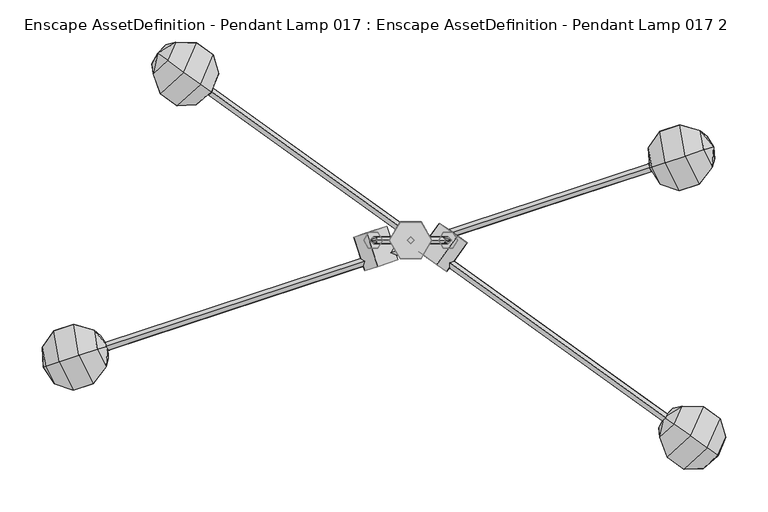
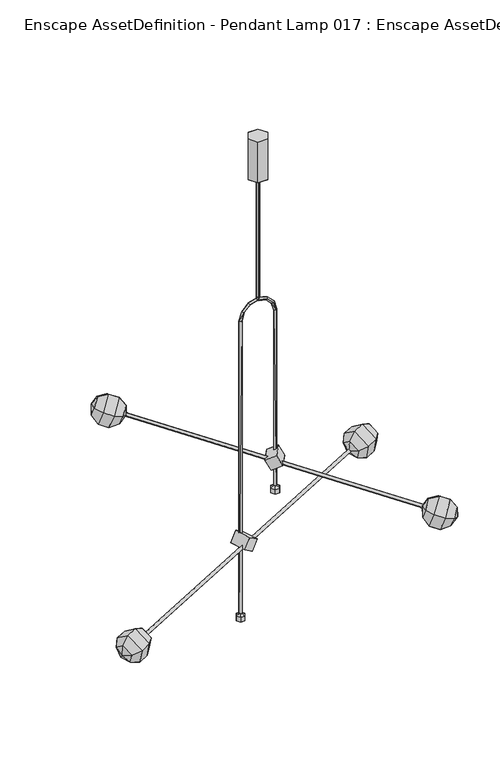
"""IFC4 building model written with IfcOpenShell, lengths in millimetres: geographic element geometry, Enscape AssetDefinition - Pendant Lamp 017 : Enscape AssetDefinition - Pendant Lamp 017 2."""

from ifc_helpers import new_model, si_unit, origin, place, context, project, spatial, triangles, source, transform, mapped, element, save


def enscape_assetdefinition_pendant_lamp_017_enscape_30fa210a(model_context):
    return source(origin(), model_context, "Body", "Tessellation", [
        triangles([(24.970369, 0.0, -110.5763719), (24.970369, 0.0, 0.0), (12.4851845, 21.6247815, 0.0), (-12.4851845, -21.6247815, 0.0), (12.4851845, -21.6247815, 0.0), (-12.4851845, 21.6247815, 0.0), (-24.970369, 0.0, 0.0), (-12.4851845, 21.6247815, -110.5763719), (-12.4851845, -21.6247815, -110.5763719), (-24.970369, 0.0, -110.5763719), (12.4851845, -21.6247815, -110.5763719), (12.4851845, 21.6247815, -110.5763719), (-44.3841413, 4.1345414, -486.2931006), (-44.3841413, -4.1345414, -486.2931006), (-48.5186818, 0.0, -1287.0794323), (-44.3841413, 4.1345414, -1287.0794323), (-40.2859358, 0.0, -486.8382345), (-44.3841413, -4.1345414, -1287.0794323), (-40.2495963, 0.0, -1287.0794323), (-48.4831507, 0.0, -485.7480758), (-38.322838, 4.1345414, -463.8947585), (-38.322838, -4.1345414, -463.8947585), (-34.7446815, 0.0, -465.9660347), (-41.9009898, 0.0, -461.8225739), (-20.3270864, 0.0, -451.5484554), (0.0, 4.1345414, -441.9089639), (-22.3983921, 4.1345414, -447.9702945), (-22.3983921, -4.1345414, -447.9702945), (-24.4705085, 0.0, -444.3921335), (0.0, 0.0, -437.7744415), (0.0, 0.0, -446.0435589), (24.4705085, 0.0, -444.3921335), (22.3983921, 4.1345414, -447.9702945), (22.3983921, -4.1345414, -447.9702945), (0.0, -4.1345414, -441.9089639), (41.9009898, 0.0, -461.8225739), (38.322838, 4.1345414, -463.8947585), (20.3270864, 0.0, -451.5484554), (34.7446815, 0.0, -465.9660347), (38.322838, -4.1345414, -463.8947585), (48.4831507, 0.0, -485.7480758), (44.3841413, -4.1345414, -486.2931006), (44.3841413, 4.1345414, -972.2349146), (44.3841413, 4.1345414, -486.2931006), (40.2859358, 0.0, -486.8382345), (40.2495963, 0.0, -972.2349146), (44.3841413, -4.1345414, -972.2349146), (48.5186818, 0.0, -972.2349146), (38.7895882, 9.690331, -965.7748438), (49.9794984, 9.690331, -965.7748438), (38.7895882, 9.690331, -978.6952034), (33.195035, 0.0, -978.6952034), (44.3841413, 0.0, -985.1553469), (49.9794984, 9.690331, -978.6952034), (33.195035, 0.0, -965.7748438), (38.7895882, -9.690331, -965.7748438), (49.9794984, -9.690331, -965.7748438), (38.7895882, -9.690331, -978.6952034), (55.5740515, 0.0, -978.6952034), (55.5740515, 0.0, -965.7748438), (49.9794984, -9.690331, -978.6952034), (44.3841413, 0.0, -959.314555), (-49.9794984, 9.690331, -1280.6193615), (-33.195035, 0.0, -1280.6193615), (-38.7895882, 9.690331, -1293.5396484), (-33.195035, 0.0, -1293.5396484), (-38.7895882, 9.690331, -1280.6193615), (-49.9794984, 9.690331, -1293.5396484), (-55.5740515, 0.0, -1293.5396484), (-55.5740515, 0.0, -1280.6193615), (-49.9794984, -9.690331, -1293.5396484), (-49.9794984, -9.690331, -1280.6193615), (-44.3841413, 0.0, -1300.0000099), (-38.7895882, -9.690331, -1293.5396484), (-44.3841413, 0.0, -1274.159), (-38.7895882, -9.690331, -1280.6193615), (-357.8397131, -124.8897969, -1152.3193439), (-360.3696822, -120.4855418, -1147.4522718), (282.0540592, 85.5922774, -999.9518274), (-359.7915198, -125.5317817, -1142.5845457), (284.5840646, 81.1880222, -1004.8195536), (-357.2615144, -129.9360369, -1147.4522718), (284.0058477, 86.2342622, -1009.6864803), (281.4758786, 90.6385082, -1004.8195536), (-43.5071645, 11.3530305, -1096.7589272), (-67.2339412, 3.5490842, -1080.48899), (-30.4591351, -28.315148, -1096.7589272), (-38.7306392, -31.0357101, -1055.5120989), (-15.0038637, -23.2317624, -1071.7821814), (-28.0518942, 16.4364184, -1071.7821814), (-51.7786709, 8.6324701, -1055.5120989), (-54.1851056, -36.1199042, -1080.48899), (-357.487627, -139.6336281, -1167.8786413), (-360.0281333, -149.6477879, -1141.6226858), (-366.3042037, -112.8309854, -1167.8786413), (-374.2930693, -106.2803314, -1141.6226858), (-358.4574806, -125.1013665, -1147.2689255), (-370.4145269, -129.0348292, -1125.396278), (-392.3017447, -136.2339446, -1115.0995955), (-375.4955031, -169.586451, -1141.3554783), (-371.3851436, -153.3834065, -1183.8378416), (-398.9517385, -177.3023681, -1146.5673695), (-394.8406523, -161.0985243, -1189.0495874), (-431.8229879, -149.2335236, -1139.0427561), (-415.7572171, -143.9490623, -1120.312068), (-435.7015303, -126.4798162, -1155.2692366), (-422.0325245, -107.1322689, -1146.5673695), (-398.5770521, -99.4171421, -1141.3554783), (-385.6501522, -110.015941, -1183.8378416), (-409.1055882, -117.7318763, -1189.0495874), (-434.3626222, -150.0693192, -1164.1375179), (-418.8960517, -159.8331219, -1181.5251921), (-427.7126647, -133.0304883, -1181.5251921), (-421.4365216, -169.8472817, -1155.2692366), (289.2870842, 102.8136008, -1022.1910223), (295.5623553, 65.9976158, -995.9358662), (298.1028434, 76.0117666, -1022.1910223), (282.6371086, 85.7755783, -1004.8033482), (281.2974011, 109.3642729, -995.9358662), (307.8933068, 118.1130303, -1029.7164351), (294.9664251, 128.7118202, -987.2339264), (285.1759616, 86.6105655, -979.708659), (301.2416961, 91.8950267, -960.9780436), (318.0471565, 58.5425204, -987.2339264), (318.421843, 136.4269379, -982.0213812), (331.3487429, 125.828139, -1024.5038172), (346.5844045, 106.8100593, -966.0629803), (324.697986, 99.6109529, -955.7662251), (341.5034283, 66.2576472, -982.0213812), (358.5414508, 110.7427135, -987.9357731), (342.7058258, 129.5637667, -982.2895334), (350.6954907, 123.0131128, -1008.5454889), (359.5113044, 96.2104519, -1008.5454889), (356.9708344, 86.1963103, -982.2895334), (345.6137152, 82.4606825, -1024.5038172), (322.1582791, 74.7455648, -1029.7164351), (299.4425327, -208.5310942, -985.1270782), (-238.9457893, 171.7571033, -779.091326), (303.5213898, -205.335686, -980.3692291), (297.7201087, -213.4182595, -980.3692291), (301.7988932, -210.2220338, -975.6104353), (-234.8677679, 174.9532745, -774.3326048), (-233.1453439, 179.8396224, -779.091326), (-237.2233472, 176.643433, -783.8492477), (66.862484, -3.1953869, -885.8731075), (42.5130982, -37.121233, -885.8731075), (55.4731129, 4.9792149, -859.5671551), (34.1018906, 20.317394, -873.5866482), (9.7525104, -13.6084558, -873.5866482), (45.4912594, 12.1436004, -899.8926006), (21.1418804, -21.7822506, -899.8926006), (31.1237271, -28.9466343, -859.5671551), (-235.7124656, 175.5492411, -779.1115282), (-238.1447299, 194.6601748, -795.4130768), (-278.3886942, 178.0816446, -800.9421724), (-254.5965055, 171.7377005, -795.4130768), (-253.3262524, 160.0939708, -769.7442221), (-226.7069106, 197.1829133, -769.7442221), (-276.3335145, 159.2412249, -759.4086611), (-295.9451444, 173.3172189, -752.0529327), (-252.8740452, 233.328654, -752.0529327), (-268.0555495, 198.7624135, -726.3839327), (-248.4431202, 184.6864195, -733.7389343), (-236.0895683, 175.8197551, -753.8795654), (-251.7693707, 215.1705872, -800.9421724), (-233.2616159, 219.2526236, -759.4086611), (-278.0519597, 234.0344248, -750.4871126), (-287.4346174, 212.6712848, -734.6223833), (-299.1784863, 221.1002579, -755.3088387), (-298.0003242, 192.1576568, -793.5864441), (-289.489779, 231.5116864, -776.1559673), (-271.3809643, 229.2465812, -793.5864441), (-304.6712833, 196.9454823, -750.4871126), (-305.9415001, 208.5892302, -776.1559673), (294.8323671, -233.3302709, -975.3318913), (300.3259817, -209.1754952, -980.1535446), (293.562114, -221.6865048, -1001.0015453), (310.0138896, -198.7640486, -1001.0015453), (321.4525083, -196.2405108, -975.3318913), (346.6304046, -196.9462998, -976.8985107), (328.1235037, -201.0283363, -1018.4320221), (312.0698688, -217.6036509, -959.4679613), (303.558506, -256.9576986, -976.8985107), (331.4489184, -231.5125221, -951.2288567), (351.0605121, -245.5885343, -958.5845123), (366.2420345, -211.022312, -984.253367), (372.7975574, -233.0920223, -994.5890007), (363.7920024, -254.7265121, -1003.9570335), (363.4148452, -254.4551987, -978.7251434), (346.1781793, -270.1817824, -994.5890007), (361.3597381, -235.6155602, -1020.2585821), (344.9079806, -258.537217, -1020.2585821), (301.5033444, -238.1180964, -1018.4320221), (321.1157919, -252.1940904, -1025.7868784), (323.1709717, -271.0337108, -984.253367), (347.7350973, -215.1043485, -1025.7868784), (0.0, -4.1345414, -106.6194913), (0.0, 4.1345414, -106.6194913), (4.1345414, 0.0, -106.6194913), (4.1345414, 0.0, -444.1466543), (-4.1345414, 0.0, -444.1466543), (0.0, 4.1345414, -444.1466543), (-4.1345414, 0.0, -106.6194913), (0.0, -4.1345414, -444.1466543)], [[204, 201, 202], [198, 203, 197], [200, 202, 198], [202, 201, 203], [201, 204, 197], [204, 200, 199], [204, 202, 200], [198, 197, 199], [200, 198, 199], [202, 203, 198], [201, 197, 203], [204, 199, 197], [193, 196, 194], [196, 191, 192], [196, 192, 194], [193, 194, 195], [195, 194, 192], [193, 195, 183], [195, 192, 190], [192, 188, 190], [191, 188, 192], [187, 191, 196], [191, 187, 188], [195, 190, 189], [189, 188, 187], [190, 188, 189], [183, 195, 185], [195, 189, 185], [186, 185, 189], [186, 189, 187], [187, 196, 186], [180, 186, 196], [184, 185, 186], [184, 186, 180], [183, 185, 184], [182, 175, 183], [182, 183, 184], [179, 182, 184], [179, 184, 180], [179, 180, 181], [193, 181, 196], [180, 196, 181], [179, 181, 178], [178, 176, 179], [179, 176, 182], [182, 176, 175], [177, 193, 183], [177, 178, 181], [175, 176, 177], [177, 183, 175], [177, 181, 193], [177, 176, 178], [173, 174, 170], [170, 172, 165], [170, 174, 171], [170, 171, 172], [174, 173, 169], [171, 174, 169], [173, 168, 169], [168, 167, 169], [171, 169, 167], [167, 172, 171], [167, 161, 172], [165, 166, 158], [172, 161, 166], [172, 166, 165], [166, 164, 158], [166, 163, 164], [161, 163, 166], [161, 162, 163], [167, 168, 162], [167, 162, 161], [168, 173, 160], [168, 160, 162], [173, 170, 160], [160, 170, 155], [170, 165, 155], [162, 160, 159], [162, 159, 163], [160, 155, 159], [163, 159, 157], [163, 157, 164], [158, 164, 153], [164, 157, 153], [165, 158, 154], [154, 158, 153], [159, 155, 156], [156, 155, 165], [157, 156, 153], [159, 156, 157], [156, 165, 154], [156, 154, 153], [151, 152, 149], [151, 146, 152], [150, 145, 146], [149, 150, 151], [150, 146, 151], [149, 148, 150], [152, 148, 149], [152, 147, 148], [146, 145, 147], [147, 145, 150], [146, 147, 152], [147, 150, 148], [139, 144, 143], [141, 139, 143], [141, 143, 142], [140, 141, 142], [140, 142, 138], [139, 137, 144], [137, 140, 138], [137, 138, 144], [136, 126, 135], [126, 132, 133], [126, 133, 135], [136, 135, 129], [129, 135, 133], [136, 129, 124], [129, 133, 134], [133, 130, 134], [132, 130, 133], [131, 132, 126], [132, 131, 130], [129, 134, 127], [127, 130, 131], [134, 130, 127], [124, 129, 128], [129, 127, 128], [125, 128, 127], [125, 127, 131], [131, 126, 125], [121, 125, 126], [123, 128, 125], [123, 125, 121], [124, 128, 123], [122, 116, 124], [122, 124, 123], [119, 122, 123], [119, 123, 121], [119, 121, 120], [136, 120, 126], [121, 126, 120], [119, 120, 115], [115, 118, 119], [119, 118, 122], [122, 118, 116], [117, 136, 124], [117, 115, 120], [116, 118, 117], [117, 124, 116], [117, 120, 136], [117, 118, 115], [114, 112, 103], [103, 110, 109], [103, 112, 113], [103, 113, 110], [112, 114, 111], [113, 112, 111], [114, 104, 111], [104, 106, 111], [113, 111, 106], [106, 110, 113], [106, 107, 110], [109, 108, 96], [110, 107, 108], [110, 108, 109], [108, 98, 96], [108, 99, 98], [107, 99, 108], [107, 105, 99], [106, 104, 105], [106, 105, 107], [104, 114, 102], [104, 102, 105], [114, 103, 102], [102, 103, 101], [103, 109, 101], [105, 102, 100], [105, 100, 99], [102, 101, 100], [99, 100, 94], [99, 94, 98], [96, 98, 97], [98, 94, 97], [109, 96, 95], [95, 96, 97], [100, 101, 93], [93, 101, 109], [94, 93, 97], [100, 93, 94], [93, 109, 95], [93, 95, 97], [87, 89, 88], [88, 91, 86], [92, 86, 85], [89, 90, 91], [85, 90, 89], [91, 90, 85], [87, 88, 92], [88, 86, 92], [92, 85, 87], [89, 91, 88], [85, 89, 87], [91, 85, 86], [81, 79, 80], [79, 84, 78], [84, 83, 77], [83, 81, 82], [81, 80, 82], [79, 78, 80], [84, 77, 78], [83, 82, 77], [72, 76, 75], [76, 64, 75], [74, 64, 76], [74, 66, 64], [66, 74, 73], [65, 66, 73], [71, 74, 76], [74, 71, 73], [71, 76, 72], [70, 72, 75], [70, 71, 72], [70, 69, 71], [71, 69, 73], [68, 65, 73], [69, 68, 73], [66, 65, 67], [67, 65, 68], [64, 67, 75], [66, 67, 64], [63, 68, 69], [63, 70, 75], [63, 69, 70], [67, 68, 63], [63, 75, 67], [56, 57, 62], [57, 60, 62], [61, 60, 57], [61, 59, 60], [59, 61, 53], [54, 59, 53], [58, 61, 57], [61, 58, 53], [58, 57, 56], [55, 56, 62], [55, 58, 56], [55, 52, 58], [58, 52, 53], [51, 54, 53], [52, 51, 53], [59, 54, 50], [50, 54, 51], [60, 50, 62], [59, 50, 60], [49, 51, 52], [49, 55, 62], [49, 52, 55], [50, 51, 49], [49, 62, 50], [13, 23, 17], [23, 25, 28], [31, 28, 25], [43, 47, 46], [43, 48, 47], [42, 47, 48], [45, 46, 47], [43, 46, 45], [45, 47, 42], [48, 43, 44], [43, 45, 44], [42, 48, 41], [48, 44, 41], [40, 42, 41], [39, 45, 42], [44, 45, 39], [39, 42, 40], [38, 39, 40], [31, 38, 34], [38, 40, 34], [34, 40, 36], [40, 41, 36], [41, 44, 37], [37, 39, 38], [41, 37, 36], [44, 39, 37], [33, 38, 31], [37, 38, 33], [32, 36, 37], [34, 36, 32], [32, 37, 33], [35, 34, 32], [31, 35, 28], [31, 34, 35], [35, 32, 30], [32, 33, 26], [32, 26, 30], [33, 31, 26], [35, 30, 29], [29, 30, 26], [35, 29, 28], [27, 26, 31], [27, 25, 23], [29, 26, 27], [27, 31, 25], [13, 21, 23], [27, 23, 21], [28, 29, 24], [24, 29, 27], [24, 27, 21], [23, 28, 22], [28, 24, 22], [22, 24, 20], [20, 24, 21], [20, 21, 13], [23, 22, 14], [23, 14, 17], [22, 20, 14], [17, 14, 18], [17, 18, 19], [16, 13, 17], [16, 17, 19], [19, 18, 15], [14, 20, 15], [15, 20, 13], [19, 15, 16], [14, 15, 18], [15, 13, 16], [2, 1, 12], [10, 8, 11], [11, 9, 10], [12, 1, 11], [7, 10, 9], [12, 8, 6], [8, 10, 7], [4, 9, 11], [2, 3, 4], [4, 5, 2], [6, 7, 4], [5, 11, 1], [2, 12, 3], [8, 12, 11], [7, 9, 4], [12, 6, 3], [8, 7, 6], [4, 11, 5], [3, 6, 4], [5, 1, 2]], closed=False),
    ])


if __name__ == "__main__":
    model = new_model("IFC4")
    model_context = context("Model", 3, world=origin())
    ifc_project = project(units=[si_unit("LENGTHUNIT", "METRE", prefix="MILLI")], contexts=[model_context])
    site = spatial("IfcSite", under=ifc_project)
    building = spatial("IfcBuilding", under=site)
    placement = place(None, origin())
    enscape_assetdefinition_pendant_lamp_017_enscape_shape = enscape_assetdefinition_pendant_lamp_017_enscape_30fa210a(model_context)
    element("IfcGeographicElement", 1, ObjectType="Enscape AssetDefinition - Pendant Lamp 017 : Enscape AssetDefinition - Pendant Lamp 017 2", at=placement, inside=building, context=model_context, shape_type="MappedRepresentation", body=[
        mapped(enscape_assetdefinition_pendant_lamp_017_enscape_shape, transform((0.0, 0.0, 0.0), x_axis=(1.0, 0.0, 0.0), y_axis=(0.0, 1.0, 0.0), z_axis=(0.0, 0.0, 1.0))),
    ])
    save(model, "model.ifc")
